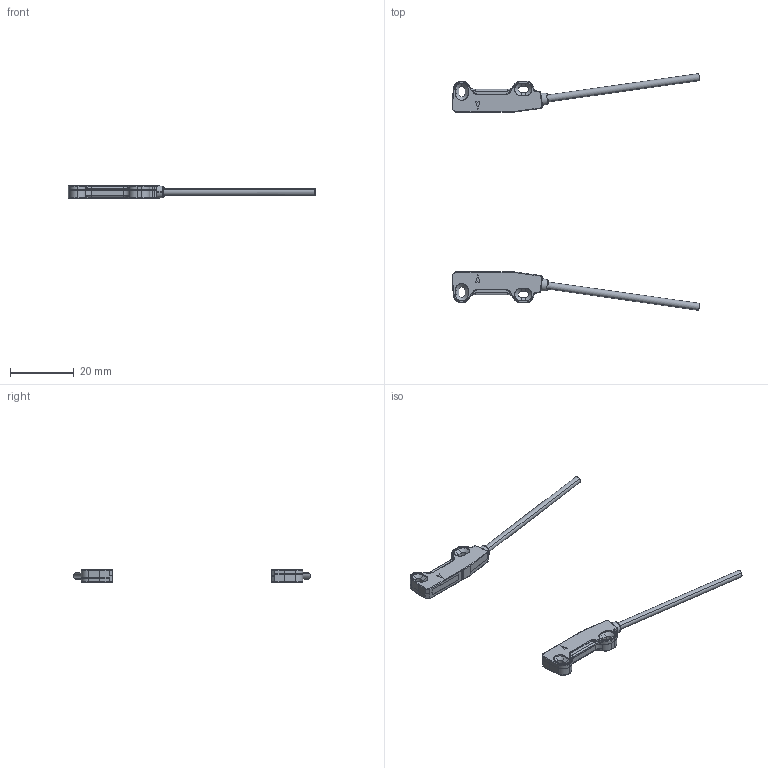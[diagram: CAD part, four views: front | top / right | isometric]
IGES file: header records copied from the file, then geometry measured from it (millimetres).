
Start section: SolidWorks IGES file using analytic representation for surfaces
Bounding box: 77.69 x 74.3 x 4 mm (x, y, z)
Surface area: 2446.1 mm2 (no closed solid volume)
Topology: 0 solids, 0 shells, 466 faces, 3584 edges, 3580 vertices
Faces by surface type: bspline 280, revolution 186
